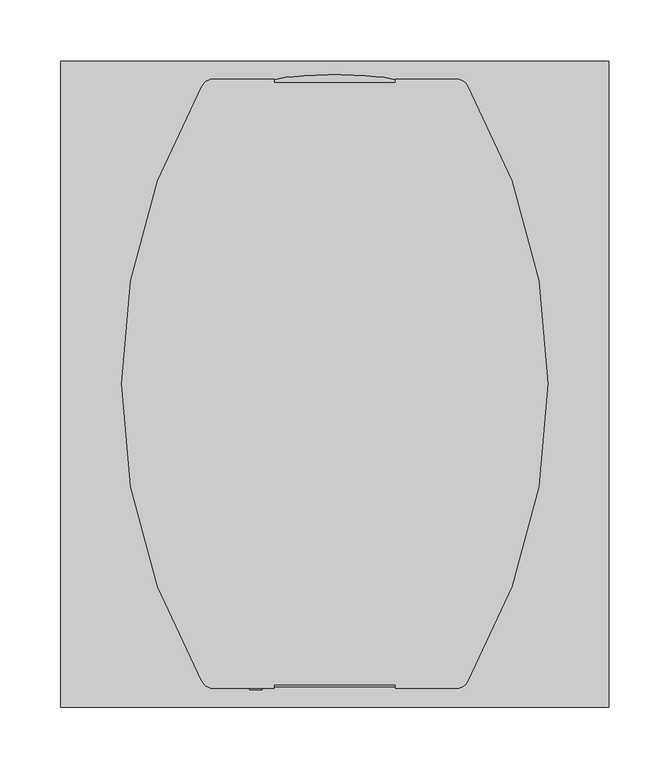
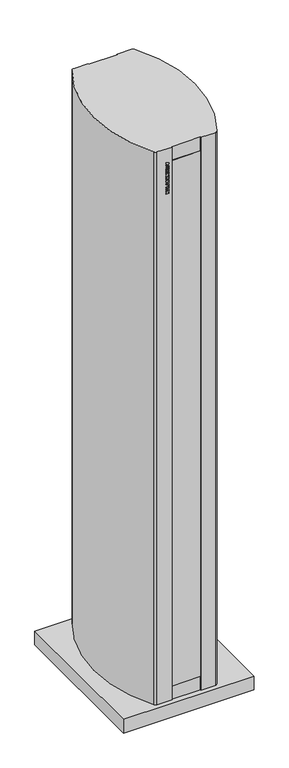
"""IFC4 building model written with IfcOpenShell, lengths in millimetres: proxy geometry, ADSK_Завеса дизайнерская_Электрическая : KVC-S20E18-31."""

from ifc_helpers import new_model, si_unit, point, frame, frame_2d, origin, origin_with_axes, place, context, project, spatial, polyline, circle_curve, ellipse_curve, trimmed, segment, composite_curve, outline, extrude, faceted_brep, source, transform, mapped, element, save
from ifc_brep_helpers import plane_surface, extruded_surface, advanced_brep


def mechanical_equipment_2aded307(model_context):
    return source(origin(), model_context, "Body", "SolidModel", [
        extrude(outline(polyline([(1900.0784314, -70.0), (1900.0784314, -60.0), (1903.2156863, -60.0), (1903.2156863, -61.7647059), (1904.9865196, -63.7745098), (1906.8186275, -60.0), (1910.6666667, -60.0), (1907.192402, -66.2775735), (1910.4705882, -70.0), (1906.1997549, -70.0), (1903.2156863, -66.2224265), (1903.2156863, -70.0), (1900.0784314, -70.0)])), frame((0.0, -251.0, 0.0), z_axis=(0.0, 1.0, 0.0), x_axis=(0.0, 0.0, 1.0)), (0.0, 0.0, 1.0), 1.0),
        extrude(outline(polyline([(1917.6642157, -61.5686275), (1918.1176471, -60.0), (1921.4509804, -60.0), (1918.0778186, -70.0), (1914.0398284, -70.0), (1910.6666667, -60.0), (1914.0, -60.0), (1914.4319853, -61.5686275), (1917.6642157, -61.5686275)]), holes=[polyline([(1917.0698529, -63.9215686), (1915.0814951, -63.9215686), (1916.0588235, -67.4540441), (1917.0698529, -63.9215686)])]), frame((0.0, -251.0, 0.0), z_axis=(0.0, 1.0, 0.0), x_axis=(0.0, 0.0, 1.0)), (0.0, 0.0, 1.0), 1.0),
        extrude(outline(polyline([(1922.4313725, -70.0), (1922.4313725, -60.0), (1930.2745098, -60.0), (1930.2745098, -62.3529412), (1925.5686275, -62.3529412), (1925.5686275, -70.0), (1922.4313725, -70.0)])), frame((0.0, -251.0, 0.0), z_axis=(0.0, 1.0, 0.0), x_axis=(0.0, 0.0, 1.0)), (0.0, 0.0, 1.0), 1.0),
        extrude(outline(polyline([(1937.6642157, -61.5686275), (1938.1176471, -60.0), (1941.4509804, -60.0), (1938.0778186, -70.0), (1934.0398284, -70.0), (1930.6666667, -60.0), (1934.0, -60.0), (1934.4319853, -61.5686275), (1937.6642157, -61.5686275)]), holes=[polyline([(1937.0698529, -63.9215686), (1935.0814951, -63.9215686), (1936.0588235, -67.4540441), (1937.0698529, -63.9215686)])]), frame((0.0, -251.0, 0.0), z_axis=(0.0, 1.0, 0.0), x_axis=(0.0, 0.0, 1.0)), (0.0, 0.0, 1.0), 1.0),
        extrude(outline(polyline([(1941.8431373, -63.3394608), (1942.9491422, -60.8026961), (1946.4601716, -59.8039216), (1948.8560049, -60.2297794), (1950.3342525, -61.4813113), (1950.8627451, -63.28125), (1950.4675245, -64.7870711), (1949.2022059, -65.9129902), (1946.3223039, -66.8106618), (1946.1905637, -68.4313725), (1946.9641544, -68.1050858), (1947.3333333, -67.0588235), (1950.4705882, -67.2395833), (1949.2925858, -69.4883578), (1946.4172794, -70.1960784), (1943.9969363, -69.8039216), (1942.6749387, -68.7285539), (1942.2352941, -67.276348), (1943.1023284, -65.3492647), (1945.9761029, -64.1237745), (1947.7254902, -62.8186275), (1947.4114583, -62.0818015), (1946.5183824, -61.7647059), (1945.3204657, -62.3958333), (1944.9803922, -63.5294118), (1941.8431373, -63.3394608)])), frame((0.0, -251.0, 0.0), z_axis=(0.0, 1.0, 0.0), x_axis=(0.0, 0.0, 1.0)), (0.0, 0.0, 1.0), 1.0),
        extrude(outline(polyline([(1952.4313725, -70.0), (1952.4313725, -60.0), (1955.5686275, -60.0), (1955.5686275, -64.1176471), (1958.9019608, -64.1176471), (1958.9019608, -60.0), (1962.0392157, -60.0), (1962.0392157, -70.0), (1958.9019608, -70.0), (1958.9019608, -66.4705882), (1955.5686275, -66.4705882), (1955.5686275, -70.0), (1952.4313725, -70.0)])), frame((0.0, -251.0, 0.0), z_axis=(0.0, 1.0, 0.0), x_axis=(0.0, 0.0, 1.0)), (0.0, 0.0, 1.0), 1.0),
        extrude(outline(polyline([(1964.0, -70.0), (1964.0, -60.0), (1966.9411765, -60.0), (1966.9411765, -65.4901961), (1970.6666667, -60.0), (1973.6078431, -60.0), (1973.6078431, -70.0), (1970.6666667, -70.0), (1970.6666667, -64.4730392), (1966.9197304, -70.0), (1964.0, -70.0)])), frame((0.0, -251.0, 0.0), z_axis=(0.0, 1.0, 0.0), x_axis=(0.0, 0.0, 1.0)), (0.0, 0.0, 1.0), 1.0),
        extrude(outline(polyline([(-60.0, -251.0), (-70.0, -251.0), (-70.0, -250.0), (-60.0, -250.0), (-60.0, -251.0)])), frame((0.0, 0.0, 1975.7647059), z_axis=(0.0, 0.0, 1.0), x_axis=(1.0, 0.0, 0.0)), (0.0, 0.0, 1.0), 3.1372549),
        extrude(outline(polyline([(1981.0588235, -70.0), (1981.0588235, -60.0), (1984.1960784, -60.0), (1984.1960784, -61.7647059), (1985.9669118, -63.7745098), (1987.7990196, -60.0), (1991.6470588, -60.0), (1988.1727941, -66.2775735), (1991.4509804, -70.0), (1987.1801471, -70.0), (1984.1960784, -66.2224265), (1984.1960784, -70.0), (1981.0588235, -70.0)])), frame((0.0, -251.0, 0.0), z_axis=(0.0, 1.0, 0.0), x_axis=(0.0, 0.0, 1.0)), (0.0, 0.0, 1.0), 1.0),
        extrude(outline(polyline([(1992.2352941, -64.9938725), (1992.9261642, -62.0603554), (1994.7291667, -60.346201), (1997.5386029, -59.8039216), (2000.3250613, -60.4304534), (2002.036152, -62.1859681), (2002.627451, -65.0765931), (2001.2732843, -68.8495711), (1997.4129902, -70.1960784), (1993.6032475, -68.8250613), (1992.2352941, -64.9938725)]), holes=[polyline([(1995.372549, -64.9938725), (1995.9301471, -67.1813725), (1997.4068627, -67.8431373), (1998.9295343, -67.1920956), (1999.4901961, -65.1286765), (1998.9525123, -62.8048407), (1997.4344363, -62.1568627), (1995.9270833, -62.8186275), (1995.372549, -64.9938725)])]), frame((0.0, -251.0, 0.0), z_axis=(0.0, 1.0, 0.0), x_axis=(0.0, 0.0, 1.0)), (0.0, 0.0, 1.0), 1.0),
        extrude(outline(polyline([(2003.4117647, -70.0), (2007.1280637, -60.0), (2010.4583333, -60.0), (2014.1960784, -70.0), (2010.8627451, -70.0), (2008.8039216, -62.8033088), (2006.7420343, -70.0), (2003.4117647, -70.0)])), frame((0.0, -251.0, 0.0), z_axis=(0.0, 1.0, 0.0), x_axis=(0.0, 0.0, 1.0)), (0.0, 0.0, 1.0), 1.0),
        extrude(outline(polyline([(225.0, 265.0), (225.0, -265.0), (-225.0, -265.0), (-225.0, 265.0), (225.0, 265.0)])), origin_with_axes(), (0.0, 0.0, 1.0), 50.0),
        faceted_brep([(50.0, -247.0, 2014.0), (-50.0, -247.0, 2014.0), (-50.0, -248.5, 2014.0), (50.0, -248.5, 2014.0), (50.0, -247.0, 100.0), (50.0, -248.5, 100.0), (-50.0, -248.5, 100.0), (-50.0, -247.0, 100.0)], [[[0, 1, 2, 3]], [[4, 5, 6, 7]], [[1, 0, 4, 7]], [[2, 1, 7, 6]], [[3, 2, 6, 5]], [[0, 3, 5, 4]]]),
        advanced_brep(
        [(-50.0, 248.5, 2014.0), (-50.0, 247.0, 2014.0), (50.0, 247.0, 2014.0), (50.0, 248.5, 2014.0), (-50.0, 248.5, 100.0), (50.0, 248.5, 100.0), (50.0, 247.0, 100.0), (-50.0, 247.0, 100.0)],
        [
            (0, 1),
            (1, 2),
            (2, 3),
            (3, 0, ellipse_curve(frame((0.0, 248.5, 2014.0), z_axis=(0.0, 0.0, 1.0), x_axis=(-1.0, 0.0, 0.0)), 50.0, 5.0)),
            (4, 5, ellipse_curve(frame((0.0, 248.5, 100.0), z_axis=(0.0, 0.0, -1.0), x_axis=(-1.0, 0.0, 0.0)), 50.0, 5.0)),
            (5, 6),
            (6, 7),
            (7, 4),
            (0, 4),
            (7, 1),
            (6, 2),
            (5, 3),
        ],
        [
            plane_surface(frame((-50.0, -247.0, 2014.0), z_axis=(0.0, 0.0, 1.0), x_axis=(-1.0, 0.0, 0.0))),
            plane_surface(frame((-50.0, -247.0, 100.0), z_axis=(0.0, 0.0, -1.0), x_axis=(1.0, 0.0, 0.0))),
            plane_surface(frame((-50.0, 248.5, 2014.0), z_axis=(-1.0, 0.0, 0.0), x_axis=(0.0, 0.0, -1.0))),
            plane_surface(frame((-50.0, 247.0, 2014.0), z_axis=(0.0, -1.0, 0.0), x_axis=(0.0, 0.0, -1.0))),
            plane_surface(frame((50.0, 247.0, 2014.0), z_axis=(1.0, 0.0, 0.0), x_axis=(0.0, 0.0, -1.0))),
            extruded_surface(trimmed(ellipse_curve(frame((0.0, 248.5, -1914.0), z_axis=(0.0, 0.0, 1.0), x_axis=(-1.0, 0.0, 0.0)), 50.0, 5.0), [point((50.0, 248.5, -1914.0))], [point((-50.0, 248.5, -1914.0))], True, "CARTESIAN"), (0.0, 0.0, 1914.0), 1914.0),
        ],
        [
            (0, [[1, 2, 3, 4]]),
            (1, [[5, 6, 7, 8]]),
            (2, [[-1, 9, -8, 10]]),
            (3, [[-2, -10, -7, 11]]),
            (4, [[-3, -11, -6, 12]]),
            (5, [[-4, -12, -5, -9]]),
        ],
    ),
        extrude(outline(composite_curve([segment(polyline([(-50.0, 250.0), (-50.0, 247.0), (50.0, 247.0), (50.0, 250.0), (100.0, 250.0)]), True, "CONTINUOUS"), segment(trimmed(circle_curve(frame_2d((100.0, 240.0)), 10.0), [point((100.0, 250.0))], [point((109.287324, 243.7075077))], False, "CARTESIAN"), True, "CONTINUOUS"), segment(trimmed(circle_curve(frame_2d((-309.7733265, 0.0)), 484.7733265), [point((109.287324, 243.7075077))], [point((109.287324, -243.7075077))], False, "CARTESIAN"), True, "CONTINUOUS"), segment(trimmed(circle_curve(frame_2d((100.0, -240.0)), 10.0), [point((109.287324, -243.7075077))], [point((100.0, -250.0))], False, "CARTESIAN"), True, "CONTINUOUS"), segment(polyline([(100.0, -250.0), (50.0, -250.0), (50.0, -247.0), (-50.0, -247.0), (-50.0, -250.0), (-100.0, -250.0)]), True, "CONTINUOUS"), segment(trimmed(circle_curve(frame_2d((-100.0, -240.0)), 10.0), [point((-100.0, -250.0))], [point((-109.287324, -243.7075077))], False, "CARTESIAN"), True, "CONTINUOUS"), segment(trimmed(circle_curve(frame_2d((309.7733265, 0.0)), 484.7733265), [point((-109.287324, -243.7075077))], [point((-109.287324, 243.7075077))], False, "CARTESIAN"), True, "CONTINUOUS"), segment(trimmed(circle_curve(frame_2d((-100.0, 240.0)), 10.0), [point((-109.287324, 243.7075077))], [point((-100.0, 250.0))], False, "CARTESIAN"), True, "CONTINUOUS"), segment(polyline([(-100.0, 250.0), (-50.0, 250.0)]), True, "CONTINUOUS")], self_intersect=False)), frame((0.0, 0.0, 50.0), z_axis=(0.0, 0.0, 1.0), x_axis=(1.0, 0.0, 0.0)), (0.0, 0.0, 1.0), 2014.0),
    ])


if __name__ == "__main__":
    model = new_model("IFC4")
    model_context = context("Model", 3, world=origin())
    ifc_project = project(units=[si_unit("LENGTHUNIT", "METRE", prefix="MILLI")], contexts=[model_context])
    site = spatial("IfcSite", under=ifc_project)
    building = spatial("IfcBuilding", under=site)
    placement = place(None, origin())
    mechanical_equipment_shape = mechanical_equipment_2aded307(model_context)
    element("IfcBuildingElementProxy", 1, Name="ADSK_Завеса дизайнерская_Электрическая : KVC-S20E18-31", ObjectType="ADSK_Завеса дизайнерская_Электрическая : KVC-S20E18-31", at=placement, inside=building, context=model_context, shape_type="MappedRepresentation", body=[
        mapped(mechanical_equipment_shape, transform((0.0, 0.0, 0.0), x_axis=(1.0, 0.0, 0.0), y_axis=(0.0, 1.0, 0.0), z_axis=(0.0, 0.0, 1.0))),
    ])
    save(model, "model.ifc")
